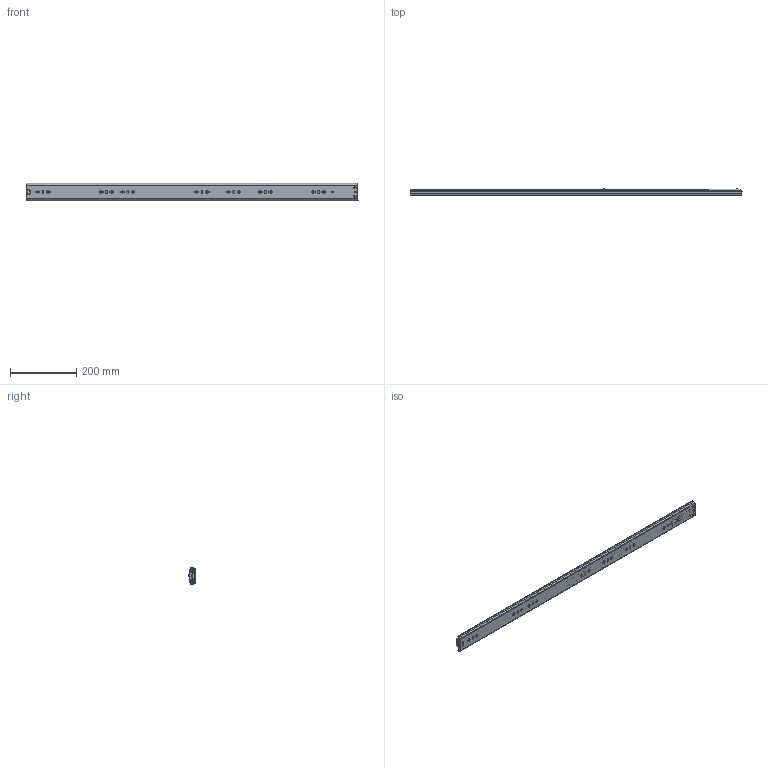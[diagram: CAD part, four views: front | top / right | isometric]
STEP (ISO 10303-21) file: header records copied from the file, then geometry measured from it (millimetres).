
FILE_DESCRIPTION((''),'2;1');
FILE_NAME('1053-HD-1000_ASM','2023-11-18T',('jishu015'),(''),'PRO/ENGINEER BY PARAMETRIC TECHNOLOGY CORPORATION, 2010280','PRO/ENGINEER BY PARAMETRIC TECHNOLOGY CORPORATION, 2010280','');
FILE_SCHEMA(('CONFIG_CONTROL_DESIGN'));
Products named in the file (25): 1053-02-18WAIKE11___; MANIFOLD_SOLID_BREP_512___; MANIFOLD_SOLID_BREP_5212___; MANIFOLD_SOLID_BREP_5312___; ADMI29141B9BC7PD_ASM11__ASM; ASM0001______________ASM; 53_ASM______________ASM; 1053-02-18XTPJG-DAZHUJIA2_____; 1053-02-18XTPJG-5-6GANZHU13; ZHONGGUIJIAO-11_______________; 1053-02-18XTPJG-DAZHUJIA12______ASM; 1053-02-18WAIKE11____ASM; 1053-02-18ZHONGGUI11______; 53ZHIDIJIAO12___; 3X6-MAODING_____________; 1053-02-18ZHONGGUI11_______ASM; 1053XIAOZHUJIA-14GE11_______; 53-5-6GANZHU12___; 1053XIAOZHUJIA-14GE11________ASM; 1053-02-18NEIGUI12____; 53BACHA12___; XIAOMAODING_____________; 3X4MAODING_____________; 1053-02-18NEIGUI12_____ASM; 1053-HD-1000_ASM
Assembly tree (155 placements, depth 6):
  1053-HD-1000_ASM
    1053-02-18WAIKE11____ASM
      1053-02-18WAIKE11___
      53_ASM______________ASM
        ASM0001______________ASM
          ADMI29141B9BC7PD_ASM11__ASM
            MANIFOLD_SOLID_BREP_512___
            MANIFOLD_SOLID_BREP_5212___
            MANIFOLD_SOLID_BREP_5312___
      1053-02-18XTPJG-DAZHUJIA12______ASM
        1053-02-18XTPJG-DAZHUJIA2_____
        1053-02-18XTPJG-5-6GANZHU13  x64
        ZHONGGUIJIAO-11_______________  x2
    1053-02-18ZHONGGUI11_______ASM
      1053-02-18ZHONGGUI11______
      53ZHIDIJIAO12___
      3X6-MAODING_____________
    1053XIAOZHUJIA-14GE11________ASM
      1053XIAOZHUJIA-14GE11_______
      53-5-6GANZHU12___  x68
    1053-02-18NEIGUI12_____ASM
      1053-02-18NEIGUI12____
      53BACHA12___
      XIAOMAODING_____________
      3X4MAODING_____________
Bounding box: 1002.1 x 19.75 x 53 mm (x, y, z)
Volume: 380781.2 mm3; surface area: 470673.3 mm2
Topology: 147 solids, 147 shells, 4994 faces, 13957 edges, 8704 vertices
Faces by surface type: plane 2175, cylinder 2042, sphere 294, bspline 266, cone 155, torus 60, extrusion 2
Entity records: 173856 total; most frequent: CARTESIAN_POINT 52637, ORIENTED_EDGE 25852, DIRECTION 24603, EDGE_CURVE 12926, AXIS2_PLACEMENT_3D 8405, VERTEX_POINT 8318, VECTOR 7793, LINE 7791
